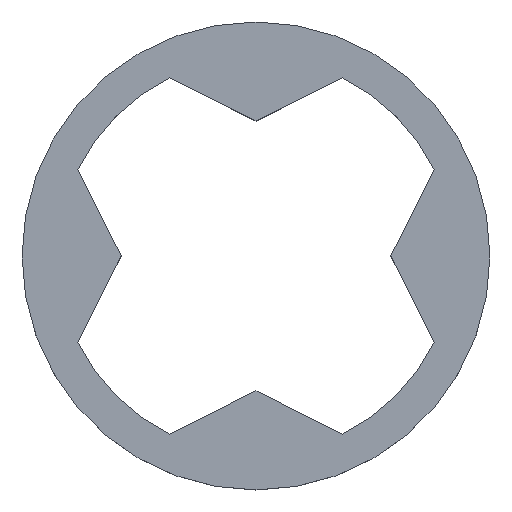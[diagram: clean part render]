
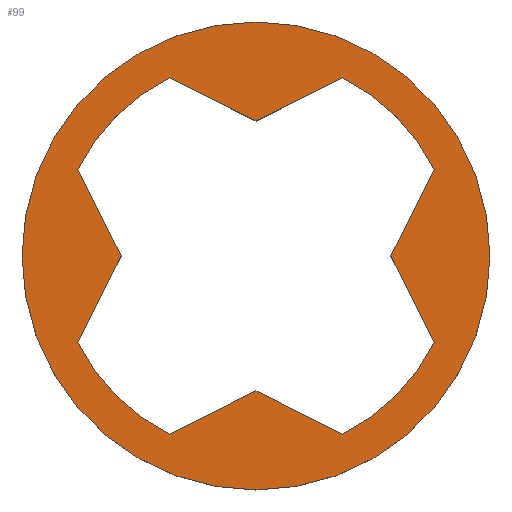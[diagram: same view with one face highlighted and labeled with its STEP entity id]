
A CAD part, top view. The second image highlights one B-rep face of the part: STEP entity #99.
In plain terms, the highlighted planar face has unit normal (0, 0, 1).
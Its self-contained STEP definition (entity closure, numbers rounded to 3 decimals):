
#7 = EDGE_CURVE ( 'NONE', #136, #139, #254, .T. ) ;
#8 = EDGE_CURVE ( 'NONE', #123, #127, #263, .T. ) ;
#14 = AXIS2_PLACEMENT_3D ( 'NONE', #457, #455, #467 ) ;
#15 = AXIS2_PLACEMENT_3D ( 'NONE', #461, #462, #463 ) ;
#16 = AXIS2_PLACEMENT_3D ( 'NONE', #480, #486, #478 ) ;
#23 = EDGE_CURVE ( 'NONE', #203, #135, #293, .T. ) ;
#25 = EDGE_CURVE ( 'NONE', #135, #203, #295, .T. ) ;
#26 = EDGE_CURVE ( 'NONE', #139, #123, #292, .T. ) ;
#27 = EDGE_CURVE ( 'NONE', #138, #137, #297, .T. ) ;
#30 = EDGE_CURVE ( 'NONE', #144, #138, #301, .T. ) ;
#31 = EDGE_CURVE ( 'NONE', #128, #126, #304, .T. ) ;
#32 = EDGE_CURVE ( 'NONE', #125, #128, #307, .T. ) ;
#33 = EDGE_CURVE ( 'NONE', #127, #208, #302, .T. ) ;
#35 = EDGE_CURVE ( 'NONE', #137, #140, #101, .T. ) ;
#38 = EDGE_CURVE ( 'NONE', #126, #144, #106, .T. ) ;
#43 = AXIS2_PLACEMENT_3D ( 'NONE', #423, #426, #428 ) ;
#48 = AXIS2_PLACEMENT_3D ( 'NONE', #450, #451, #443 ) ;
#49 = AXIS2_PLACEMENT_3D ( 'NONE', #466, #471, #472 ) ;
#54 = EDGE_CURVE ( 'NONE', #140, #136, #233, .T. ) ;
#55 = EDGE_CURVE ( 'NONE', #208, #125, #284, .T. ) ;
#69 = AXIS2_PLACEMENT_3D ( 'NONE', #338, #358, #385 ) ;
#99 = ADVANCED_FACE ( 'NONE', ( #534, #539 ), #368, .T. ) ;
#101 = LINE ( 'NONE', #475, #117 ) ;
#106 = LINE ( 'NONE', #483, #115 ) ;
#115 = VECTOR ( 'NONE', #484, 1000. ) ;
#117 = VECTOR ( 'NONE', #473, 1000. ) ;
#123 = VERTEX_POINT ( 'NONE', #364 ) ;
#125 = VERTEX_POINT ( 'NONE', #346 ) ;
#126 = VERTEX_POINT ( 'NONE', #388 ) ;
#127 = VERTEX_POINT ( 'NONE', #360 ) ;
#128 = VERTEX_POINT ( 'NONE', #350 ) ;
#134 = EDGE_LOOP ( 'NONE', ( #179, #165, #201, #187, #181, #180, #155, #202, #194, #154, #163, #205 ) ) ;
#135 = VERTEX_POINT ( 'NONE', #369 ) ;
#136 = VERTEX_POINT ( 'NONE', #393 ) ;
#137 = VERTEX_POINT ( 'NONE', #363 ) ;
#138 = VERTEX_POINT ( 'NONE', #371 ) ;
#139 = VERTEX_POINT ( 'NONE', #353 ) ;
#140 = VERTEX_POINT ( 'NONE', #389 ) ;
#144 = VERTEX_POINT ( 'NONE', #357 ) ;
#154 = ORIENTED_EDGE ( 'NONE', *, *, #55, .F. ) ;
#155 = ORIENTED_EDGE ( 'NONE', *, *, #38, .F. ) ;
#163 = ORIENTED_EDGE ( 'NONE', *, *, #33, .F. ) ;
#165 = ORIENTED_EDGE ( 'NONE', *, *, #7, .F. ) ;
#173 = ORIENTED_EDGE ( 'NONE', *, *, #23, .T. ) ;
#178 = ORIENTED_EDGE ( 'NONE', *, *, #25, .T. ) ;
#179 = ORIENTED_EDGE ( 'NONE', *, *, #26, .F. ) ;
#180 = ORIENTED_EDGE ( 'NONE', *, *, #30, .F. ) ;
#181 = ORIENTED_EDGE ( 'NONE', *, *, #27, .F. ) ;
#187 = ORIENTED_EDGE ( 'NONE', *, *, #35, .F. ) ;
#194 = ORIENTED_EDGE ( 'NONE', *, *, #32, .F. ) ;
#201 = ORIENTED_EDGE ( 'NONE', *, *, #54, .F. ) ;
#202 = ORIENTED_EDGE ( 'NONE', *, *, #31, .F. ) ;
#203 = VERTEX_POINT ( 'NONE', #374 ) ;
#205 = ORIENTED_EDGE ( 'NONE', *, *, #8, .F. ) ;
#208 = VERTEX_POINT ( 'NONE', #366 ) ;
#233 = LINE ( 'NONE', #502, #276 ) ;
#237 = EDGE_LOOP ( 'NONE', ( #173, #178 ) ) ;
#254 = CIRCLE ( 'NONE', #43, 11. ) ;
#263 = LINE ( 'NONE', #429, #267 ) ;
#267 = VECTOR ( 'NONE', #430, 1000. ) ;
#276 = VECTOR ( 'NONE', #500, 1000. ) ;
#281 = VECTOR ( 'NONE', #503, 1000. ) ;
#284 = LINE ( 'NONE', #507, #281 ) ;
#288 = VECTOR ( 'NONE', #446, 1000. ) ;
#290 = VECTOR ( 'NONE', #456, 1000. ) ;
#292 = LINE ( 'NONE', #444, #288 ) ;
#293 = CIRCLE ( 'NONE', #48, 13. ) ;
#295 = CIRCLE ( 'NONE', #49, 13. ) ;
#297 = CIRCLE ( 'NONE', #14, 11. ) ;
#301 = LINE ( 'NONE', #470, #290 ) ;
#302 = CIRCLE ( 'NONE', #16, 11. ) ;
#304 = CIRCLE ( 'NONE', #15, 11. ) ;
#306 = VECTOR ( 'NONE', #459, 1000. ) ;
#307 = LINE ( 'NONE', #469, #306 ) ;
#338 = CARTESIAN_POINT ( 'NONE',  ( 0., 0., 2. ) ) ;
#346 = CARTESIAN_POINT ( 'NONE',  ( 0., -7.5, 2. ) ) ;
#350 = CARTESIAN_POINT ( 'NONE',  ( 4.797, -9.899, 2. ) ) ;
#353 = CARTESIAN_POINT ( 'NONE',  ( -9.899, 4.797, 2. ) ) ;
#357 = CARTESIAN_POINT ( 'NONE',  ( 7.5, 0., 2. ) ) ;
#358 = DIRECTION ( 'NONE',  ( 0., 0., 1. ) ) ;
#360 = CARTESIAN_POINT ( 'NONE',  ( -9.899, -4.797, 2. ) ) ;
#363 = CARTESIAN_POINT ( 'NONE',  ( 4.797, 9.899, 2. ) ) ;
#364 = CARTESIAN_POINT ( 'NONE',  ( -7.5, 0., 2. ) ) ;
#366 = CARTESIAN_POINT ( 'NONE',  ( -4.797, -9.899, 2. ) ) ;
#368 = PLANE ( 'NONE',  #69 ) ;
#369 = CARTESIAN_POINT ( 'NONE',  ( 13., 0., 2. ) ) ;
#371 = CARTESIAN_POINT ( 'NONE',  ( 9.899, 4.797, 2. ) ) ;
#374 = CARTESIAN_POINT ( 'NONE',  ( -13., 0., 2. ) ) ;
#385 = DIRECTION ( 'NONE',  ( 1., 0., 0. ) ) ;
#388 = CARTESIAN_POINT ( 'NONE',  ( 9.899, -4.797, 2. ) ) ;
#389 = CARTESIAN_POINT ( 'NONE',  ( 0., 7.5, 2. ) ) ;
#393 = CARTESIAN_POINT ( 'NONE',  ( -4.797, 9.899, 2. ) ) ;
#423 = CARTESIAN_POINT ( 'NONE',  ( 0., 0., 2. ) ) ;
#426 = DIRECTION ( 'NONE',  ( 0., 0., 1. ) ) ;
#428 = DIRECTION ( 'NONE',  ( 1., 0., 0. ) ) ;
#429 = CARTESIAN_POINT ( 'NONE',  ( -9.899, -4.797, 2. ) ) ;
#430 = DIRECTION ( 'NONE',  ( -0.447, -0.894, 0. ) ) ;
#443 = DIRECTION ( 'NONE',  ( 1., 0., 0. ) ) ;
#444 = CARTESIAN_POINT ( 'NONE',  ( -7.5, 0., 2. ) ) ;
#446 = DIRECTION ( 'NONE',  ( 0.447, -0.894, 0. ) ) ;
#450 = CARTESIAN_POINT ( 'NONE',  ( 0., 0., 2. ) ) ;
#451 = DIRECTION ( 'NONE',  ( 0., 0., 1. ) ) ;
#455 = DIRECTION ( 'NONE',  ( 0., 0., 1. ) ) ;
#456 = DIRECTION ( 'NONE',  ( 0.447, 0.894, 0. ) ) ;
#457 = CARTESIAN_POINT ( 'NONE',  ( 0., 0., 2. ) ) ;
#459 = DIRECTION ( 'NONE',  ( 0.894, -0.447, 0. ) ) ;
#461 = CARTESIAN_POINT ( 'NONE',  ( 0., 0., 2. ) ) ;
#462 = DIRECTION ( 'NONE',  ( 0., 0., 1. ) ) ;
#463 = DIRECTION ( 'NONE',  ( 1., 0., 0. ) ) ;
#466 = CARTESIAN_POINT ( 'NONE',  ( 0., 0., 2. ) ) ;
#467 = DIRECTION ( 'NONE',  ( 1., 0., 0. ) ) ;
#469 = CARTESIAN_POINT ( 'NONE',  ( 4.797, -9.899, 2. ) ) ;
#470 = CARTESIAN_POINT ( 'NONE',  ( 9.899, 4.797, 2. ) ) ;
#471 = DIRECTION ( 'NONE',  ( 0., 0., 1. ) ) ;
#472 = DIRECTION ( 'NONE',  ( 1., 0., 0. ) ) ;
#473 = DIRECTION ( 'NONE',  ( -0.894, -0.447, 0. ) ) ;
#475 = CARTESIAN_POINT ( 'NONE',  ( 0., 7.5, 2. ) ) ;
#478 = DIRECTION ( 'NONE',  ( 1., 0., 0. ) ) ;
#480 = CARTESIAN_POINT ( 'NONE',  ( 0., 0., 2. ) ) ;
#483 = CARTESIAN_POINT ( 'NONE',  ( 7.5, 0., 2. ) ) ;
#484 = DIRECTION ( 'NONE',  ( -0.447, 0.894, 0. ) ) ;
#486 = DIRECTION ( 'NONE',  ( 0., 0., 1. ) ) ;
#500 = DIRECTION ( 'NONE',  ( -0.894, 0.447, 0. ) ) ;
#502 = CARTESIAN_POINT ( 'NONE',  ( -4.797, 9.899, 2. ) ) ;
#503 = DIRECTION ( 'NONE',  ( 0.894, 0.447, 0. ) ) ;
#507 = CARTESIAN_POINT ( 'NONE',  ( 0., -7.5, 2. ) ) ;
#534 = FACE_OUTER_BOUND ( 'NONE', #237, .T. ) ;
#539 = FACE_BOUND ( 'NONE', #134, .T. ) ;
